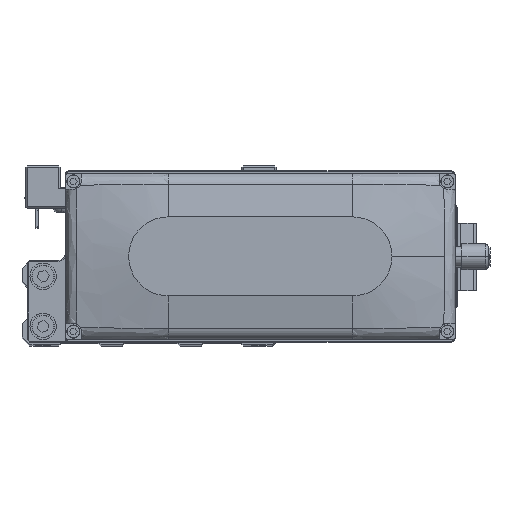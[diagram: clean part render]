
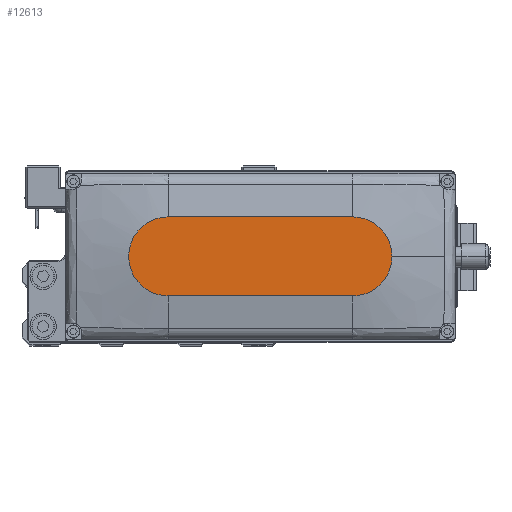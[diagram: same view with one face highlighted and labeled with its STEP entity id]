
A CAD part, top view. The second image highlights one B-rep face of the part: STEP entity #12613.
In plain terms, the highlighted planar face has unit normal (0, 0, 1).
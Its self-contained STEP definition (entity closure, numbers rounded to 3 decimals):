
#129 = DIRECTION ( 'NONE',  ( 0., 0., 1. ) ) ;
#528 = EDGE_CURVE ( 'NONE', #25021, #7805, #10449, .T. ) ;
#619 = VERTEX_POINT ( 'NONE', #3789 ) ;
#2018 = DIRECTION ( 'NONE',  ( 1., 0., 0. ) ) ;
#2062 = CARTESIAN_POINT ( 'NONE',  ( 35., 15., 35. ) ) ;
#3222 = DIRECTION ( 'NONE',  ( 1., 0., 0. ) ) ;
#3789 = CARTESIAN_POINT ( 'NONE',  ( -35., 15., 35. ) ) ;
#4347 = CARTESIAN_POINT ( 'NONE',  ( 35., -15., 35. ) ) ;
#5620 = AXIS2_PLACEMENT_3D ( 'NONE', #27077, #129, #12128 ) ;
#5870 = VECTOR ( 'NONE', #34127, 1000. ) ;
#6246 = VECTOR ( 'NONE', #23009, 1000. ) ;
#6452 = CARTESIAN_POINT ( 'NONE',  ( 0., 0., 35. ) ) ;
#6497 = EDGE_LOOP ( 'NONE', ( #38405, #25905, #7958, #14593, #12352 ) ) ;
#7805 = VERTEX_POINT ( 'NONE', #2062 ) ;
#7958 = ORIENTED_EDGE ( 'NONE', *, *, #11165, .T. ) ;
#8250 = EDGE_CURVE ( 'NONE', #14389, #25021, #13466, .T. ) ;
#10050 = EDGE_CURVE ( 'NONE', #7805, #619, #10121, .T. ) ;
#10121 = LINE ( 'NONE', #22112, #5870 ) ;
#10449 = CIRCLE ( 'NONE', #32434, 15. ) ;
#11008 = CARTESIAN_POINT ( 'NONE',  ( -35., -15., 35. ) ) ;
#11165 = EDGE_CURVE ( 'NONE', #36868, #14389, #37991, .T. ) ;
#12128 = DIRECTION ( 'NONE',  ( 1., 0., 0. ) ) ;
#12352 = ORIENTED_EDGE ( 'NONE', *, *, #528, .T. ) ;
#12613 = ADVANCED_FACE ( 'NONE', ( #21406 ), #33418, .T. ) ;
#13466 = CIRCLE ( 'NONE', #35502, 15. ) ;
#14389 = VERTEX_POINT ( 'NONE', #4347 ) ;
#14593 = ORIENTED_EDGE ( 'NONE', *, *, #8250, .T. ) ;
#16948 = CARTESIAN_POINT ( 'NONE',  ( 35., 0., 35. ) ) ;
#18142 = CARTESIAN_POINT ( 'NONE',  ( 35., 0., 35. ) ) ;
#18445 = DIRECTION ( 'NONE',  ( 0., 0., 1. ) ) ;
#19126 = CARTESIAN_POINT ( 'NONE',  ( -35., -15., 35. ) ) ;
#21406 = FACE_OUTER_BOUND ( 'NONE', #6497, .T. ) ;
#22112 = CARTESIAN_POINT ( 'NONE',  ( -35., 15., 35. ) ) ;
#22587 = CIRCLE ( 'NONE', #5620, 15. ) ;
#23009 = DIRECTION ( 'NONE',  ( 1., 0., 0. ) ) ;
#25021 = VERTEX_POINT ( 'NONE', #30700 ) ;
#25905 = ORIENTED_EDGE ( 'NONE', *, *, #34961, .T. ) ;
#27077 = CARTESIAN_POINT ( 'NONE',  ( -35., 0., 35. ) ) ;
#28969 = DIRECTION ( 'NONE',  ( 0., 0., 1. ) ) ;
#30165 = DIRECTION ( 'NONE',  ( 0., 0., 1. ) ) ;
#30454 = DIRECTION ( 'NONE',  ( 1., 0., 0. ) ) ;
#30700 = CARTESIAN_POINT ( 'NONE',  ( 50., 0., 35. ) ) ;
#32434 = AXIS2_PLACEMENT_3D ( 'NONE', #18142, #30165, #3222 ) ;
#33418 = PLANE ( 'NONE',  #35777 ) ;
#34127 = DIRECTION ( 'NONE',  ( -1., 0., 0. ) ) ;
#34961 = EDGE_CURVE ( 'NONE', #619, #36868, #22587, .T. ) ;
#35502 = AXIS2_PLACEMENT_3D ( 'NONE', #16948, #28969, #2018 ) ;
#35777 = AXIS2_PLACEMENT_3D ( 'NONE', #6452, #18445, #30454 ) ;
#36868 = VERTEX_POINT ( 'NONE', #19126 ) ;
#37991 = LINE ( 'NONE', #11008, #6246 ) ;
#38405 = ORIENTED_EDGE ( 'NONE', *, *, #10050, .T. ) ;
